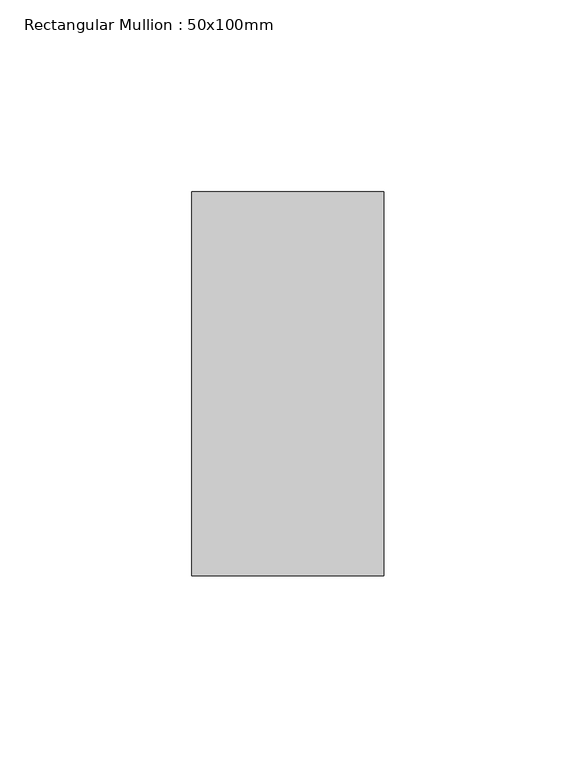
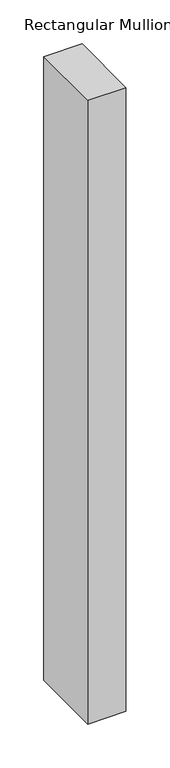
"""IFC4 building model written with IfcOpenShell, lengths in millimetres: member geometry, Rectangular Mullion : 50x100mm."""

from ifc_helpers import new_model, si_unit, frame, origin, place, context, project, spatial, polyline, outline, extrude, source, transform, mapped, element, save


def rectangular_mullion_50x100mm_9cb1a5c7(model_context):
    return source(origin(), model_context, "Body", "SweptSolid", [
        extrude(outline(polyline([(25.0, 50.0), (25.0, -50.0), (-25.0, -50.0), (-25.0, 50.0), (25.0, 50.0)])), frame((0.0, 0.0, -866.5056762), z_axis=(0.0, 0.0, 1.0), x_axis=(1.0, 0.0, 0.0)), (0.0, 0.0, 1.0), 866.5056762),
    ])


if __name__ == "__main__":
    model = new_model("IFC4")
    model_context = context("Model", 3, world=origin())
    ifc_project = project(units=[si_unit("LENGTHUNIT", "METRE", prefix="MILLI")], contexts=[model_context])
    site = spatial("IfcSite", under=ifc_project)
    building = spatial("IfcBuilding", under=site)
    placement = place(None, origin())
    rectangular_mullion_50x100mm_shape = rectangular_mullion_50x100mm_9cb1a5c7(model_context)
    element("IfcMember", 1, ObjectType="Rectangular Mullion : 50x100mm", at=placement, inside=building, context=model_context, shape_type="MappedRepresentation", body=[
        mapped(rectangular_mullion_50x100mm_shape, transform((0.0, 0.0, 0.0), x_axis=(1.0, 0.0, 0.0), y_axis=(0.0, 1.0, 0.0), z_axis=(0.0, 0.0, 1.0))),
    ])
    save(model, "model.ifc")
